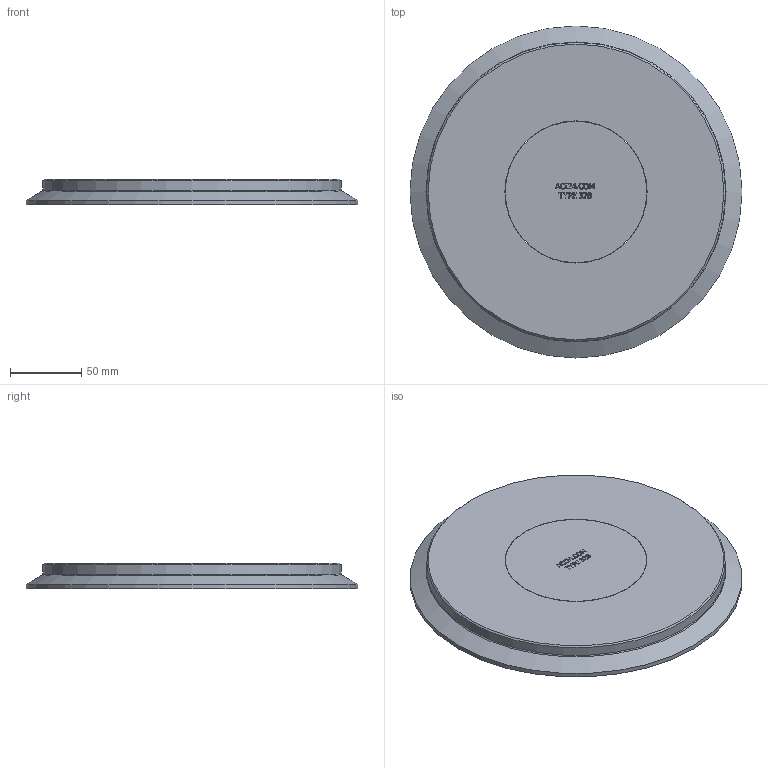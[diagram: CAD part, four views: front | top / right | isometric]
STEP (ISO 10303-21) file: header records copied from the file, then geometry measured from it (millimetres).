
FILE_DESCRIPTION(/* description */ ('ACI Typ 328 DN 200 PN 6'),/* implementation_level */ '2;1');
FILE_NAME(/* name */ 'C:\Users\willms\Desktop\ACI-328-200-6.stp',/* time_stamp */ '2020-09-01T16:25:45+02:00',/* author */ ('götz'),/* organization */ ('ACI Industriearmaturen GmbH info@aci24.com www.aci24.com'),/* preprocessor_version */ 'ST-DEVELOPER v16.1',/* originating_system */ 'Autodesk Inventor 2016',/* authorisation */ 'ACI Industriearmaturen GmbH info@aci24.com www.aci24.com');
FILE_SCHEMA (('CONFIG_CONTROL_DESIGN'));
Length unit declared in the file: centimetre
Products named in the file (1): ACI-328-200-6
Bounding box: 233.5 x 233.5 x 18 mm (x, y, z)
Volume: 672338.6 mm3; surface area: 106211.6 mm2
Topology: 2 solids, 2 shells, 270 faces, 725 edges, 482 vertices
Faces by surface type: plane 147, bspline 114, cylinder 4, cone 4, torus 1
Full cylindrical faces by diameter (mm): 99.5 x1, 100 x1, 210 x1, 233.5 x1
Entity records: 8972 total; most frequent: CARTESIAN_POINT 2951, ORIENTED_EDGE 1432, DIRECTION 816, EDGE_CURVE 716, VERTEX_POINT 482, LINE 474, VECTOR 474, EDGE_LOOP 304
